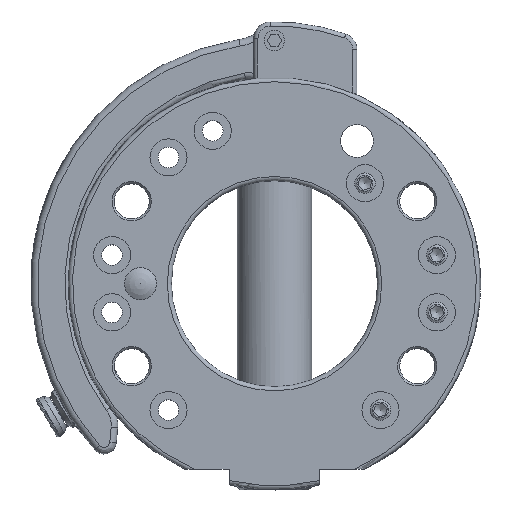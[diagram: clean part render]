
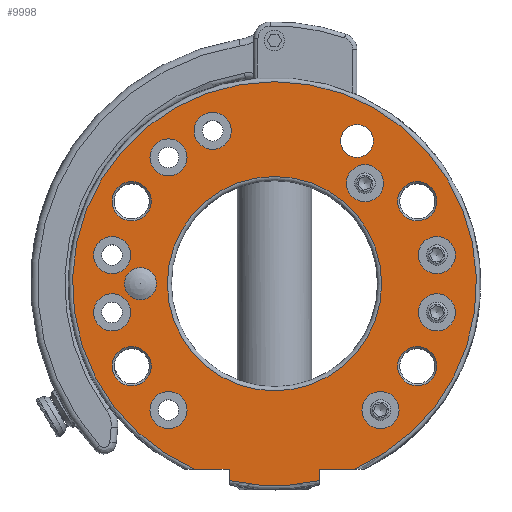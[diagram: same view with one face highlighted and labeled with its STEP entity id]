
A CAD part, top view. The second image highlights one B-rep face of the part: STEP entity #9998.
In plain terms, the highlighted planar face has unit normal (0, 0, 1).
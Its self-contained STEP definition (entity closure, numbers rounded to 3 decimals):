
#215=FACE_BOUND('',#2935,.T.);
#216=FACE_BOUND('',#2936,.T.);
#217=FACE_BOUND('',#2937,.T.);
#218=FACE_BOUND('',#2938,.T.);
#219=FACE_BOUND('',#2939,.T.);
#220=FACE_BOUND('',#2940,.T.);
#221=FACE_BOUND('',#2941,.T.);
#222=FACE_BOUND('',#2942,.T.);
#223=FACE_BOUND('',#2943,.T.);
#224=FACE_BOUND('',#2944,.T.);
#225=FACE_BOUND('',#2945,.T.);
#226=FACE_BOUND('',#2946,.T.);
#227=FACE_BOUND('',#2947,.T.);
#228=FACE_BOUND('',#2948,.T.);
#229=FACE_BOUND('',#2949,.T.);
#230=FACE_BOUND('',#2950,.T.);
#330=PLANE('',#10785);
#658=LINE('',#15135,#1210);
#659=LINE('',#15137,#1211);
#660=LINE('',#15141,#1212);
#661=LINE('',#15143,#1213);
#1210=VECTOR('',#12157,10.);
#1211=VECTOR('',#12158,10.);
#1212=VECTOR('',#12161,10.);
#1213=VECTOR('',#12162,10.);
#1672=CIRCLE('',#10553,26.);
#1699=CIRCLE('',#10597,4.75);
#1701=CIRCLE('',#10601,4.75);
#1703=CIRCLE('',#10605,4.75);
#1705=CIRCLE('',#10609,4.75);
#1708=CIRCLE('',#10613,3.9);
#1709=CIRCLE('',#10615,4.);
#1765=CIRCLE('',#10705,4.5);
#1768=CIRCLE('',#10710,4.5);
#1770=CIRCLE('',#10714,4.5);
#1772=CIRCLE('',#10718,4.5);
#1774=CIRCLE('',#10722,4.5);
#1776=CIRCLE('',#10726,4.5);
#1779=CIRCLE('',#10731,4.5);
#1782=CIRCLE('',#10736,4.5);
#1784=CIRCLE('',#10740,4.5);
#1807=CIRCLE('',#10786,49.);
#1808=CIRCLE('',#10787,49.);
#2296=FACE_OUTER_BOUND('',#2934,.T.);
#2934=EDGE_LOOP('',(#6831,#6832,#6833,#6834,#6835,#6836));
#2935=EDGE_LOOP('',(#6837));
#2936=EDGE_LOOP('',(#6838));
#2937=EDGE_LOOP('',(#6839));
#2938=EDGE_LOOP('',(#6840));
#2939=EDGE_LOOP('',(#6841));
#2940=EDGE_LOOP('',(#6842));
#2941=EDGE_LOOP('',(#6843));
#2942=EDGE_LOOP('',(#6844));
#2943=EDGE_LOOP('',(#6845));
#2944=EDGE_LOOP('',(#6846));
#2945=EDGE_LOOP('',(#6847));
#2946=EDGE_LOOP('',(#6848));
#2947=EDGE_LOOP('',(#6849));
#2948=EDGE_LOOP('',(#6850));
#2949=EDGE_LOOP('',(#6851));
#2950=EDGE_LOOP('',(#6852));
#3912=VERTEX_POINT('',#14114);
#3943=VERTEX_POINT('',#14290);
#3945=VERTEX_POINT('',#14298);
#3947=VERTEX_POINT('',#14306);
#3953=VERTEX_POINT('',#14376);
#3956=VERTEX_POINT('',#14384);
#3957=VERTEX_POINT('',#14388);
#4029=VERTEX_POINT('',#14701);
#4032=VERTEX_POINT('',#14710);
#4034=VERTEX_POINT('',#14717);
#4036=VERTEX_POINT('',#14724);
#4038=VERTEX_POINT('',#14731);
#4040=VERTEX_POINT('',#14738);
#4043=VERTEX_POINT('',#14747);
#4046=VERTEX_POINT('',#14756);
#4048=VERTEX_POINT('',#14763);
#4089=VERTEX_POINT('',#15133);
#4090=VERTEX_POINT('',#15134);
#4091=VERTEX_POINT('',#15136);
#4092=VERTEX_POINT('',#15138);
#4093=VERTEX_POINT('',#15140);
#4094=VERTEX_POINT('',#15142);
#4896=EDGE_CURVE('',#3912,#3912,#1672,.T.);
#4939=EDGE_CURVE('',#3943,#3943,#1699,.T.);
#4943=EDGE_CURVE('',#3945,#3945,#1701,.T.);
#4947=EDGE_CURVE('',#3947,#3947,#1703,.T.);
#4955=EDGE_CURVE('',#3953,#3953,#1705,.T.);
#4960=EDGE_CURVE('',#3956,#3956,#1708,.T.);
#4961=EDGE_CURVE('',#3957,#3957,#1709,.T.);
#5053=EDGE_CURVE('',#4029,#4029,#1765,.T.);
#5057=EDGE_CURVE('',#4032,#4032,#1768,.T.);
#5060=EDGE_CURVE('',#4034,#4034,#1770,.T.);
#5063=EDGE_CURVE('',#4036,#4036,#1772,.T.);
#5066=EDGE_CURVE('',#4038,#4038,#1774,.T.);
#5069=EDGE_CURVE('',#4040,#4040,#1776,.T.);
#5073=EDGE_CURVE('',#4043,#4043,#1779,.T.);
#5077=EDGE_CURVE('',#4046,#4046,#1782,.T.);
#5080=EDGE_CURVE('',#4048,#4048,#1784,.T.);
#5139=EDGE_CURVE('',#4089,#4090,#658,.T.);
#5140=EDGE_CURVE('',#4090,#4091,#659,.T.);
#5141=EDGE_CURVE('',#4092,#4091,#1807,.T.);
#5142=EDGE_CURVE('',#4092,#4093,#660,.T.);
#5143=EDGE_CURVE('',#4093,#4094,#661,.T.);
#5144=EDGE_CURVE('',#4089,#4094,#1808,.T.);
#6831=ORIENTED_EDGE('',*,*,#5139,.T.);
#6832=ORIENTED_EDGE('',*,*,#5140,.T.);
#6833=ORIENTED_EDGE('',*,*,#5141,.F.);
#6834=ORIENTED_EDGE('',*,*,#5142,.T.);
#6835=ORIENTED_EDGE('',*,*,#5143,.T.);
#6836=ORIENTED_EDGE('',*,*,#5144,.F.);
#6837=ORIENTED_EDGE('',*,*,#4955,.F.);
#6838=ORIENTED_EDGE('',*,*,#4943,.F.);
#6839=ORIENTED_EDGE('',*,*,#4896,.F.);
#6840=ORIENTED_EDGE('',*,*,#4939,.F.);
#6841=ORIENTED_EDGE('',*,*,#4947,.F.);
#6842=ORIENTED_EDGE('',*,*,#4960,.T.);
#6843=ORIENTED_EDGE('',*,*,#4961,.T.);
#6844=ORIENTED_EDGE('',*,*,#5053,.T.);
#6845=ORIENTED_EDGE('',*,*,#5057,.T.);
#6846=ORIENTED_EDGE('',*,*,#5060,.T.);
#6847=ORIENTED_EDGE('',*,*,#5063,.T.);
#6848=ORIENTED_EDGE('',*,*,#5066,.T.);
#6849=ORIENTED_EDGE('',*,*,#5069,.T.);
#6850=ORIENTED_EDGE('',*,*,#5073,.T.);
#6851=ORIENTED_EDGE('',*,*,#5077,.T.);
#6852=ORIENTED_EDGE('',*,*,#5080,.T.);
#9998=ADVANCED_FACE('',(#2296,#215,#216,#217,#218,#219,#220,#221,#222,#223,
#224,#225,#226,#227,#228,#229,#230),#330,.T.);
#10553=AXIS2_PLACEMENT_3D('',#14115,#11619,#11620);
#10597=AXIS2_PLACEMENT_3D('',#14291,#11718,#11719);
#10601=AXIS2_PLACEMENT_3D('',#14299,#11728,#11729);
#10605=AXIS2_PLACEMENT_3D('',#14307,#11738,#11739);
#10609=AXIS2_PLACEMENT_3D('',#14377,#11750,#11751);
#10613=AXIS2_PLACEMENT_3D('',#14386,#11760,#11761);
#10615=AXIS2_PLACEMENT_3D('',#14389,#11764,#11765);
#10705=AXIS2_PLACEMENT_3D('',#14702,#11968,#11969);
#10710=AXIS2_PLACEMENT_3D('',#14711,#11979,#11980);
#10714=AXIS2_PLACEMENT_3D('',#14718,#11988,#11989);
#10718=AXIS2_PLACEMENT_3D('',#14725,#11997,#11998);
#10722=AXIS2_PLACEMENT_3D('',#14732,#12006,#12007);
#10726=AXIS2_PLACEMENT_3D('',#14739,#12015,#12016);
#10731=AXIS2_PLACEMENT_3D('',#14748,#12026,#12027);
#10736=AXIS2_PLACEMENT_3D('',#14757,#12037,#12038);
#10740=AXIS2_PLACEMENT_3D('',#14764,#12046,#12047);
#10785=AXIS2_PLACEMENT_3D('',#15132,#12155,#12156);
#10786=AXIS2_PLACEMENT_3D('',#15139,#12159,#12160);
#10787=AXIS2_PLACEMENT_3D('',#15144,#12163,#12164);
#11619=DIRECTION('center_axis',(0.,0.,1.));
#11620=DIRECTION('ref_axis',(-1.,0.,0.));
#11718=DIRECTION('center_axis',(0.,0.,1.));
#11719=DIRECTION('ref_axis',(-1.,0.,0.));
#11728=DIRECTION('center_axis',(0.,0.,1.));
#11729=DIRECTION('ref_axis',(-1.,0.,0.));
#11738=DIRECTION('center_axis',(0.,0.,1.));
#11739=DIRECTION('ref_axis',(-1.,0.,0.));
#11750=DIRECTION('center_axis',(0.,0.,1.));
#11751=DIRECTION('ref_axis',(-1.,0.,0.));
#11760=DIRECTION('center_axis',(0.,0.,-1.));
#11761=DIRECTION('ref_axis',(-1.,0.,0.));
#11764=DIRECTION('center_axis',(0.,0.,-1.));
#11765=DIRECTION('ref_axis',(1.,0.,0.));
#11968=DIRECTION('center_axis',(0.,0.,-1.));
#11969=DIRECTION('ref_axis',(-1.,0.,0.));
#11979=DIRECTION('center_axis',(0.,0.,-1.));
#11980=DIRECTION('ref_axis',(-1.,0.,0.));
#11988=DIRECTION('center_axis',(0.,0.,-1.));
#11989=DIRECTION('ref_axis',(-1.,0.,0.));
#11997=DIRECTION('center_axis',(0.,0.,-1.));
#11998=DIRECTION('ref_axis',(-1.,0.,0.));
#12006=DIRECTION('center_axis',(0.,0.,-1.));
#12007=DIRECTION('ref_axis',(-1.,0.,0.));
#12015=DIRECTION('center_axis',(0.,0.,-1.));
#12016=DIRECTION('ref_axis',(-1.,0.,0.));
#12026=DIRECTION('center_axis',(0.,0.,-1.));
#12027=DIRECTION('ref_axis',(-1.,0.,0.));
#12037=DIRECTION('center_axis',(0.,0.,-1.));
#12038=DIRECTION('ref_axis',(-1.,0.,0.));
#12046=DIRECTION('center_axis',(0.,0.,-1.));
#12047=DIRECTION('ref_axis',(-1.,0.,0.));
#12155=DIRECTION('center_axis',(0.,0.,1.));
#12156=DIRECTION('ref_axis',(1.,0.,0.));
#12157=DIRECTION('',(1.,0.,0.));
#12158=DIRECTION('',(0.,-1.,0.));
#12159=DIRECTION('center_axis',(0.,0.,-1.));
#12160=DIRECTION('ref_axis',(-1.,0.,0.));
#12161=DIRECTION('',(0.,1.,0.));
#12162=DIRECTION('',(1.,0.,0.));
#12163=DIRECTION('center_axis',(0.,0.,-1.));
#12164=DIRECTION('ref_axis',(-1.,0.,0.));
#14114=CARTESIAN_POINT('',(26.,0.,30.));
#14115=CARTESIAN_POINT('Origin',(0.,0.,30.));
#14290=CARTESIAN_POINT('',(39.391,-20.,30.));
#14291=CARTESIAN_POINT('Origin',(34.641,-20.,30.));
#14298=CARTESIAN_POINT('',(39.391,20.,30.));
#14299=CARTESIAN_POINT('Origin',(34.641,20.,30.));
#14306=CARTESIAN_POINT('',(-29.891,20.,30.));
#14307=CARTESIAN_POINT('Origin',(-34.641,20.,30.));
#14376=CARTESIAN_POINT('',(-29.891,-20.,30.));
#14377=CARTESIAN_POINT('Origin',(-34.641,-20.,30.));
#14384=CARTESIAN_POINT('',(-28.6,0.,30.));
#14386=CARTESIAN_POINT('Origin',(-32.5,0.,30.));
#14388=CARTESIAN_POINT('',(16.,34.641,30.));
#14389=CARTESIAN_POINT('Origin',(20.,34.641,30.));
#14701=CARTESIAN_POINT('',(43.892,6.946,30.));
#14702=CARTESIAN_POINT('Origin',(39.392,6.946,30.));
#14710=CARTESIAN_POINT('',(43.892,-6.946,30.));
#14711=CARTESIAN_POINT('Origin',(39.392,-6.946,30.));
#14717=CARTESIAN_POINT('',(-34.892,-6.946,30.));
#14718=CARTESIAN_POINT('Origin',(-39.392,-6.946,30.));
#14724=CARTESIAN_POINT('',(-34.892,6.946,30.));
#14725=CARTESIAN_POINT('Origin',(-39.392,6.946,30.));
#14731=CARTESIAN_POINT('',(-21.212,30.642,30.));
#14732=CARTESIAN_POINT('Origin',(-25.712,30.642,30.));
#14738=CARTESIAN_POINT('',(-21.212,-30.642,30.));
#14739=CARTESIAN_POINT('Origin',(-25.712,-30.642,30.));
#14747=CARTESIAN_POINT('',(30.212,-30.642,30.));
#14748=CARTESIAN_POINT('Origin',(25.712,-30.642,30.));
#14756=CARTESIAN_POINT('',(26.447,24.375,30.));
#14757=CARTESIAN_POINT('Origin',(21.947,24.375,30.));
#14763=CARTESIAN_POINT('',(-10.484,37.087,30.));
#14764=CARTESIAN_POINT('Origin',(-14.984,37.087,30.));
#15132=CARTESIAN_POINT('Origin',(0.,0.,30.));
#15133=CARTESIAN_POINT('',(-19.391,-45.,30.));
#15134=CARTESIAN_POINT('',(-11.,-45.,30.));
#15135=CARTESIAN_POINT('',(-12.5,-45.,30.));
#15136=CARTESIAN_POINT('',(-11.,-47.749,30.));
#15137=CARTESIAN_POINT('',(-11.,-22.5,30.));
#15138=CARTESIAN_POINT('',(11.,-47.749,30.));
#15139=CARTESIAN_POINT('Origin',(0.,0.,30.));
#15140=CARTESIAN_POINT('',(11.,-45.,30.));
#15141=CARTESIAN_POINT('',(11.,-27.5,30.));
#15142=CARTESIAN_POINT('',(19.391,-45.,30.));
#15143=CARTESIAN_POINT('',(5.5,-45.,30.));
#15144=CARTESIAN_POINT('Origin',(0.,0.,30.));
